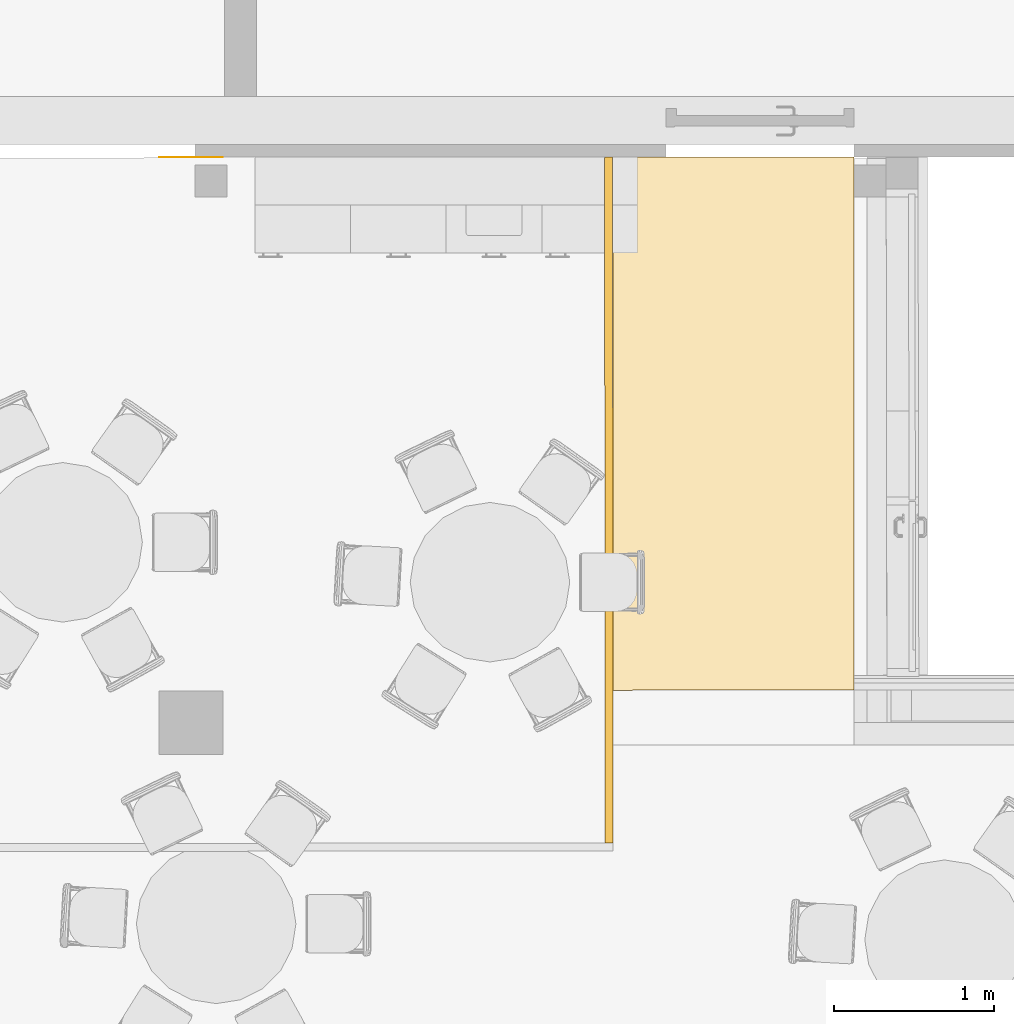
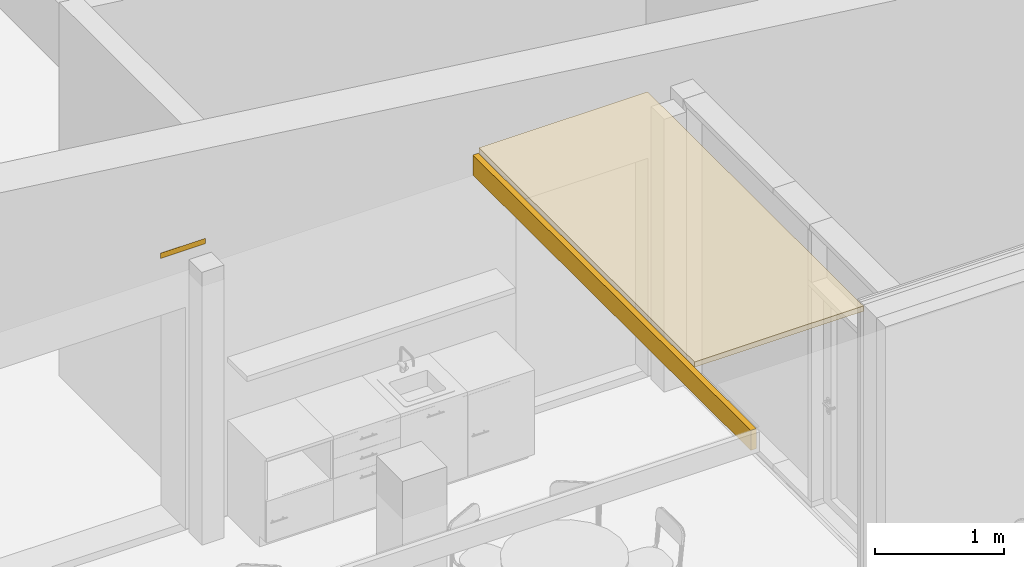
# One storey, part 240 of 301: 3 coverings.
"""IFC2X3 building model written with IfcOpenShell, lengths in millimetres."""

from ifc_helpers import new_model, entity, si_unit, converted_unit, derived_unit, money_unit, direction, frame, origin_with_axes, place, context, subcontext, project, spatial, faceted_brep, material, type_object, element, save


model = new_model("IFC2X3")

# Units and contexts
model_context = context("Model", 3, precision=0.01, world=origin_with_axes(), true_north=direction((0.0, 1.0)))
body_context = subcontext(model_context, "Body", "Model", "MODEL_VIEW")
ifc_project = project(units=[si_unit("LENGTHUNIT", "METRE", prefix="MILLI"), si_unit("AREAUNIT", "SQUARE_METRE"), si_unit("VOLUMEUNIT", "CUBIC_METRE"), converted_unit("PLANEANGLEUNIT", "DEGREE", entity("IfcPlaneAngleMeasure", 0.0174532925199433), si_unit("PLANEANGLEUNIT", "RADIAN"), dimensions=[0, 0, 0, 0, 0, 0, 0]), money_unit("EUR"), converted_unit("TIMEUNIT", "Year", entity("IfcTimeMeasure", 31557600.0), si_unit("TIMEUNIT", "SECOND"), dimensions=[0, 0, 1, 0, 0, 0, 0]), si_unit("MASSUNIT", "GRAM", prefix="KILO"), si_unit("THERMODYNAMICTEMPERATUREUNIT", "DEGREE_CELSIUS"), si_unit("LUMINOUSINTENSITYUNIT", "LUMEN"), si_unit("ENERGYUNIT", "JOULE", prefix="MEGA"), derived_unit("THERMALCONDUCTANCEUNIT", [(si_unit("POWERUNIT", "WATT"), 1), (si_unit("LENGTHUNIT", "METRE"), -1), (si_unit("THERMODYNAMICTEMPERATUREUNIT", "KELVIN"), -1)]), derived_unit("SPECIFICHEATCAPACITYUNIT", [(si_unit("ENERGYUNIT", "JOULE"), 1), (si_unit("MASSUNIT", "GRAM", prefix="KILO"), -1), (si_unit("THERMODYNAMICTEMPERATUREUNIT", "KELVIN"), -1)]), derived_unit("MASSDENSITYUNIT", [(si_unit("MASSUNIT", "GRAM", prefix="KILO"), 1), (si_unit("VOLUMEUNIT", "CUBIC_METRE"), -1)])], contexts=[model_context])

# Site, building, storey
site_placement = place(None, frame((0.0, 0.0, 8650.0), z_axis=(0.0, 0.0, 1.0), x_axis=(1.0, 0.0, 0.0)))
site = spatial("IfcSite", under=ifc_project, at=site_placement, Name="43301:001:0844", CompositionType="ELEMENT")
building_placement = place(site_placement, origin_with_axes())
building = spatial("IfcBuilding", under=site, at=building_placement, Name="Kuressaare Ametikooli tuulikute mehaanikute õppekorpus", CompositionType="ELEMENT")
storey_placement = place(building_placement, origin_with_axes())
storey = spatial("IfcBuildingStorey", under=building, at=storey_placement, Name="1.korrus", CompositionType="ELEMENT", Elevation=0.0)

# Coverings
ifc_material_1 = material(Name="GENEERILINE - KONSTRUKTRIOON")
covering_type_1 = type_object("IfcCoveringType", Name="GENEERILINE - KONSTRUKTRIOON 50", PredefinedType="CEILING")
covering_1_placement = place(storey_placement, frame((125718.0683227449, 31927.45523881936, 2640.000017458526), z_axis=(0.0, 0.0, 1.0), x_axis=(1.0, 0.0, 0.0)))
element("IfcCovering", 1, at=covering_1_placement, inside=storey, type_object=covering_type_1, material=ifc_material_1, Name="RL1", PredefinedType="CEILING", context=body_context, shape_type="Brep", body=[
    faceted_brep([(0.0, 0.0, 49.99999999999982), (0.0, 0.0, 0.0), (399.9999838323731, 0.1727740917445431, 0.0), (399.9999838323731, 0.1727740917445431, 49.99999999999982), (0.0, 1.372009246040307, 49.99999999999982), (0.0, 1.372009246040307, 0.0), (399.9999838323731, 1.372009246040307, 0.0), (399.9999838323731, 1.372009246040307, 49.99999999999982)], [[[0, 1, 2, 3]], [[4, 5, 1, 0]], [[2, 1, 5, 6]], [[3, 2, 6, 7]], [[4, 0, 3, 7]], [[7, 6, 5, 4]]]),
])
covering_2_placement = place(storey_placement, frame((130074.743790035, 31929.33607725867, 2640.000017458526), z_axis=(0.0, 0.0, 1.0), x_axis=(1.0, 0.0, 0.0)))
element("IfcCovering", 2, at=covering_2_placement, inside=storey, type_object=covering_type_1, material=ifc_material_1, Name="RL1", PredefinedType="CEILING", context=body_context, shape_type="Brep", body=[
    faceted_brep([(0.0, 0.0, 49.99999999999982), (0.0, 0.0, 0.0), (-1510.128125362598, -0.6519099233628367, 0.0), (-1510.128125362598, -0.6519099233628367, 49.99999999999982), (1.442085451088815, -3340.267233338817, 49.99999999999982), (1.442085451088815, -3340.267233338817, 0.0), (-1510.128125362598, -3342.176658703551, 0.0), (-1510.128125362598, -3342.176658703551, 49.99999999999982)], [[[0, 1, 2, 3]], [[4, 5, 1, 0]], [[2, 1, 5, 6]], [[3, 2, 6, 7]], [[4, 0, 3, 7]], [[7, 6, 5, 4]]]),
])
ifc_material_2 = material(Name="Air Space")
covering_type_2 = type_object("IfcCoveringType", Name="Air Space 50", PredefinedType="CEILING")
covering_3_placement = place(storey_placement, frame((128565.3715312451, 27580.68511883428, 2450.0), z_axis=(0.0, 0.0, 1.0), x_axis=(-0.001082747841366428, 0.9999994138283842, 0.0)))
element("IfcCovering", 3, at=covering_3_placement, inside=storey, type_object=covering_type_2, material=ifc_material_2, Name="RL1", PredefinedType="CEILING", context=body_context, shape_type="Brep", body=[
    faceted_brep([(4348.027623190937, 49.99999999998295, 0.0), (4348.027623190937, 0.0, 0.0), (50.00000017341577, 0.0, 0.0), (49.99583576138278, 49.99999999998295, 0.0), (4348.027623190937, 49.99999999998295, 190.0000174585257), (4348.027623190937, 0.0, 190.0000174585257), (50.00000017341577, 0.0, 190.0000174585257), (49.99583576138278, 49.99999999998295, 190.0000174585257)], [[[0, 1, 2, 3]], [[0, 4, 5, 1]], [[1, 5, 6, 2]], [[3, 2, 6, 7]], [[4, 0, 3, 7]], [[5, 4, 7, 6]]]),
])

save(model, "model.ifc")
